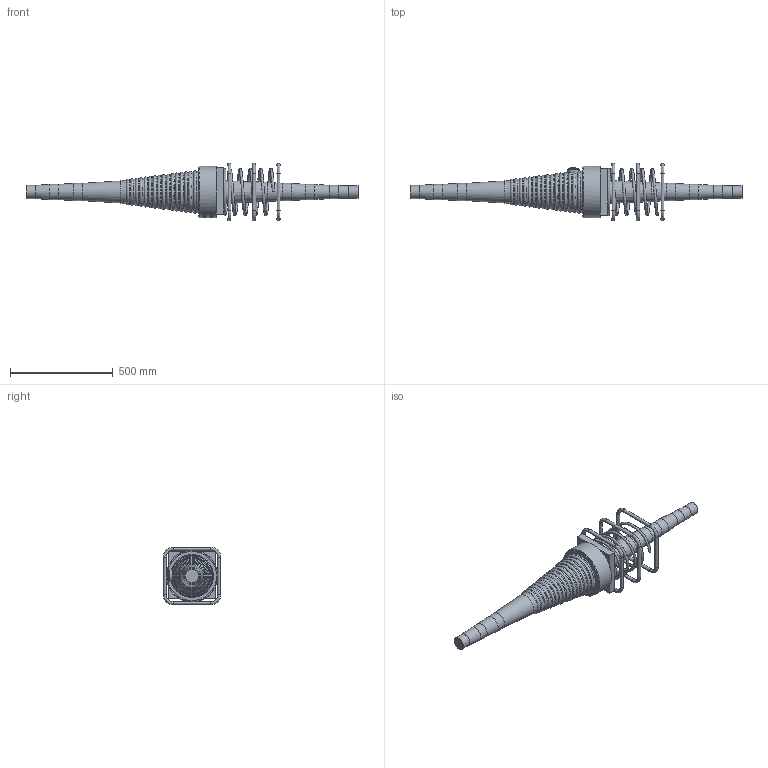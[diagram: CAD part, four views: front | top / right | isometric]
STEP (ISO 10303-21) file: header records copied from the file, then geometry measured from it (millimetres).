
FILE_DESCRIPTION(/* description */ (''),/* implementation_level */ '2;1');
FILE_NAME(/* name */ 'Z:\04 Publications\05 Give-out\BBR\6_3D_Models\BBR VT CONA CMI\BBR VT CONA CMI SP\00806\BBR VT CONA CMI SP 806_Couler K Assembly_CS-34,28.stp',/* time_stamp */ '2017-05-10T08:49:12+02:00',/* author */ ('IP'),/* organization */ (''),/* preprocessor_version */ 'ST-DEVELOPER v16.1',/* originating_system */ 'Autodesk Inventor 2016',/* authorisation */ '');
FILE_SCHEMA (('AUTOMOTIVE_DESIGN { 1 0 10303 214 3 1 1 }'));
Length unit declared in the file: millimetre
Products named in the file (1): BBR VT CONA CMI SP 806_Couler K Assembly_CS-34,28
Bounding box: 1617 x 280 x 280 mm (x, y, z)
Volume: 20934507.9 mm3; surface area: 966012 mm2
Topology: 5 solids, 5 shells, 845 faces, 2187 edges, 1414 vertices
Faces by surface type: bspline 408, plane 250, cylinder 87, torus 72, cone 18, sphere 10
Full cylindrical faces by diameter (mm): 16 x12, 34 x1, 57 x1, 59 x1, 64 x2, 74 x2, 84 x2, 240 x1, 250 x1
Entity records: 37564 total; most frequent: CARTESIAN_POINT 19602, ORIENTED_EDGE 4160, DIRECTION 2540, EDGE_CURVE 2079, VERTEX_POINT 1409, EDGE_LOOP 1017, LINE 862, VECTOR 862
